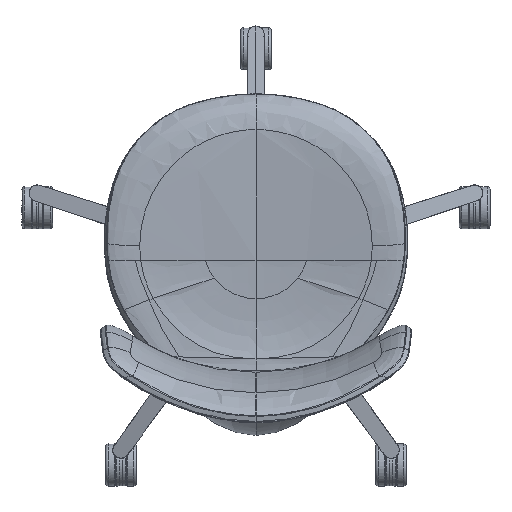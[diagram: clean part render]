
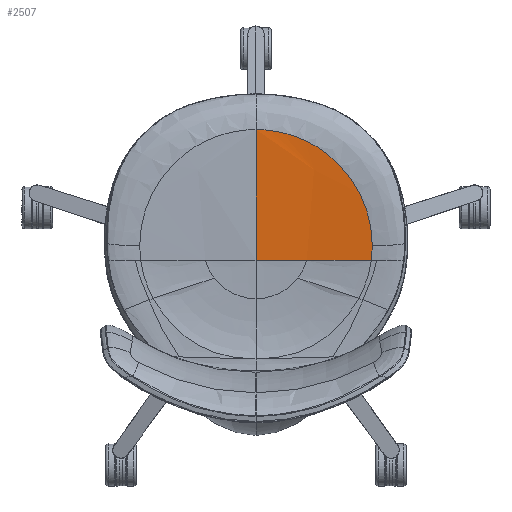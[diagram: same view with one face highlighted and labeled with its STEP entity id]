
A CAD part, top view. The second image highlights one B-rep face of the part: STEP entity #2507.
In plain terms, the highlighted free-form (B-spline) face has degree [2, 3] with [3, 5] control points.
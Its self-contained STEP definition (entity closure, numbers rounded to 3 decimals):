
#428=(
BOUNDED_SURFACE()
B_SPLINE_SURFACE(2,3,((#62495,#62496,#62497,#62498,#62499),(#62500,#62501,
#62502,#62503,#62504),(#62505,#62506,#62507,#62508,#62509)),.UNSPECIFIED.,
.F.,.F.,.F.)
B_SPLINE_SURFACE_WITH_KNOTS((3,3),(4,1,4),(4708.172,4876.286),
(1.804,56.77,188.474),.UNSPECIFIED.)
GEOMETRIC_REPRESENTATION_ITEM()
RATIONAL_B_SPLINE_SURFACE(((1.,1.,1.,1.,1.),(0.998,0.998,
0.998,0.998,0.998),(1.,1.,1.,1.,1.)))
REPRESENTATION_ITEM($)
SURFACE()
);
#2507=ADVANCED_FACE($,(#3840),#428,.T.);
#3840=FACE_OUTER_BOUND($,#5196,.T.);
#5196=EDGE_LOOP($,(#8506,#8507,#8508,#8509,#8510));
#8506=ORIENTED_EDGE($,*,*,#13554,.T.);
#8507=ORIENTED_EDGE($,*,*,#13549,.F.);
#8508=ORIENTED_EDGE($,*,*,#13555,.F.);
#8509=ORIENTED_EDGE($,*,*,#13556,.T.);
#8510=ORIENTED_EDGE($,*,*,#13553,.F.);
#13549=EDGE_CURVE($,#16507,#16506,#19395,.T.);
#13553=EDGE_CURVE($,#16509,#16511,#19399,.T.);
#13554=EDGE_CURVE($,#16509,#16506,#19400,.T.);
#13555=EDGE_CURVE($,#16500,#16507,#19401,.T.);
#13556=EDGE_CURVE($,#16500,#16511,#19402,.T.);
#16500=VERTEX_POINT($,#84025);
#16506=VERTEX_POINT($,#84031);
#16507=VERTEX_POINT($,#84032);
#16509=VERTEX_POINT($,#84034);
#16511=VERTEX_POINT($,#84036);
#19395=B_SPLINE_CURVE_WITH_KNOTS($,3,(#43919,#43920,#43921,#43922,#43923,
#43924,#43925,#43926,#43927,#43928,#43929,#43930,#43931,#43932),.UNSPECIFIED.,
.F.,.F.,(4,2,2,2,2,2,4),(-1.,-0.75,-0.625,-0.5,
-0.375,-0.25,0.),.UNSPECIFIED.);
#19399=B_SPLINE_CURVE_WITH_KNOTS($,5,(#43950,#43951,#43952,#43953,#43954,
#43955,#43956),.UNSPECIFIED.,.F.,.F.,(6,1,6),(-72.472,-20.879,
0.),.UNSPECIFIED.);
#19400=B_SPLINE_CURVE_WITH_KNOTS($,3,(#43957,#43958,#43959,#43960,#43961),
.UNSPECIFIED.,.F.,.F.,(4,1,4),(-1.,-0.294,0.),.UNSPECIFIED.);
#19401=B_SPLINE_CURVE_WITH_KNOTS($,5,(#43962,#43963,#43964,#43965,#43966,
#43967),.UNSPECIFIED.,.F.,.F.,(6,6),(-1.,0.),.UNSPECIFIED.);
#19402=B_SPLINE_CURVE_WITH_KNOTS($,5,(#43968,#43969,#43970,#43971,#43972,
#43973,#43974,#43975,#43976),.UNSPECIFIED.,.F.,.F.,(6,1,1,1,6),(0.,23.139,
46.278,69.416,92.555),.UNSPECIFIED.);
#43919=CARTESIAN_POINT($,(166.,240.783,-360.973));
#43920=CARTESIAN_POINT($,(166.,267.473,-359.819));
#43921=CARTESIAN_POINT($,(159.42,293.679,-359.351));
#43922=CARTESIAN_POINT($,(141.876,327.917,-359.62));
#43923=CARTESIAN_POINT($,(134.65,338.647,-359.859));
#43924=CARTESIAN_POINT($,(118.586,357.608,-360.486));
#43925=CARTESIAN_POINT($,(109.846,365.71,-360.888));
#43926=CARTESIAN_POINT($,(92.644,378.952,-361.872));
#43927=CARTESIAN_POINT($,(84.285,384.087,-362.43));
#43928=CARTESIAN_POINT($,(67.981,392.5,-363.527));
#43929=CARTESIAN_POINT($,(59.998,395.81,-364.07));
#43930=CARTESIAN_POINT($,(35.089,403.965,-365.56));
#43931=CARTESIAN_POINT($,(17.039,406.783,-366.292));
#43932=CARTESIAN_POINT($,(0.,406.783,-366.292));
#43950=CARTESIAN_POINT($,(0.,220.,-371.062));
#43951=CARTESIAN_POINT($,(10.319,220.,-371.062));
#43952=CARTESIAN_POINT($,(24.812,220.,-370.938));
#43953=CARTESIAN_POINT($,(39.305,220.,-370.638));
#43954=CARTESIAN_POINT($,(53.793,220.,-370.162));
#43955=CARTESIAN_POINT($,(68.273,220.,-369.512));
#43956=CARTESIAN_POINT($,(72.444,220.,-369.31));
#43957=CARTESIAN_POINT($,(0.,220.,-371.062));
#43958=CARTESIAN_POINT($,(0.,259.494,-369.495));
#43959=CARTESIAN_POINT($,(0.,320.741,-366.396));
#43960=CARTESIAN_POINT($,(0.,389.122,-364.057));
#43961=CARTESIAN_POINT($,(0.,406.783,-366.292));
#43962=CARTESIAN_POINT($,(164.694,220.,-361.985));
#43963=CARTESIAN_POINT($,(165.218,224.157,-361.761));
#43964=CARTESIAN_POINT($,(165.61,228.308,-361.548));
#43965=CARTESIAN_POINT($,(165.87,232.451,-361.345));
#43966=CARTESIAN_POINT($,(166.,236.615,-361.153));
#43967=CARTESIAN_POINT($,(166.,240.783,-360.973));
#43968=CARTESIAN_POINT($,(164.694,220.,-361.985));
#43969=CARTESIAN_POINT($,(160.094,220.,-362.494));
#43970=CARTESIAN_POINT($,(150.891,220.,-363.475));
#43971=CARTESIAN_POINT($,(137.074,220.,-364.841));
#43972=CARTESIAN_POINT($,(118.633,220.,-366.449));
#43973=CARTESIAN_POINT($,(100.168,220.,-367.772));
#43974=CARTESIAN_POINT($,(86.309,220.,-368.604));
#43975=CARTESIAN_POINT($,(77.066,220.,-369.087));
#43976=CARTESIAN_POINT($,(72.444,220.,-369.31));
#62495=CARTESIAN_POINT($,(0.,406.783,-366.292));
#62496=CARTESIAN_POINT($,(0.,389.122,-364.057));
#62497=CARTESIAN_POINT($,(0.,320.741,-366.396));
#62498=CARTESIAN_POINT($,(0.,259.494,-369.495));
#62499=CARTESIAN_POINT($,(0.,220.,-371.062));
#62500=CARTESIAN_POINT($,(83.872,406.783,-366.292));
#62501=CARTESIAN_POINT($,(83.747,389.122,-364.057));
#62502=CARTESIAN_POINT($,(83.878,320.741,-366.396));
#62503=CARTESIAN_POINT($,(84.052,259.494,-369.495));
#62504=CARTESIAN_POINT($,(84.14,220.,-371.062));
#62505=CARTESIAN_POINT($,(167.217,406.783,-356.903));
#62506=CARTESIAN_POINT($,(166.967,389.122,-354.682));
#62507=CARTESIAN_POINT($,(167.229,320.741,-357.006));
#62508=CARTESIAN_POINT($,(167.576,259.494,-360.086));
#62509=CARTESIAN_POINT($,(167.751,220.,-361.644));
#84025=CARTESIAN_POINT($,(164.694,220.,-361.985));
#84031=CARTESIAN_POINT($,(0.,406.783,-366.292));
#84032=CARTESIAN_POINT($,(166.,240.783,-360.973));
#84034=CARTESIAN_POINT($,(0.,220.,-371.062));
#84036=CARTESIAN_POINT($,(72.444,220.,-369.31));
